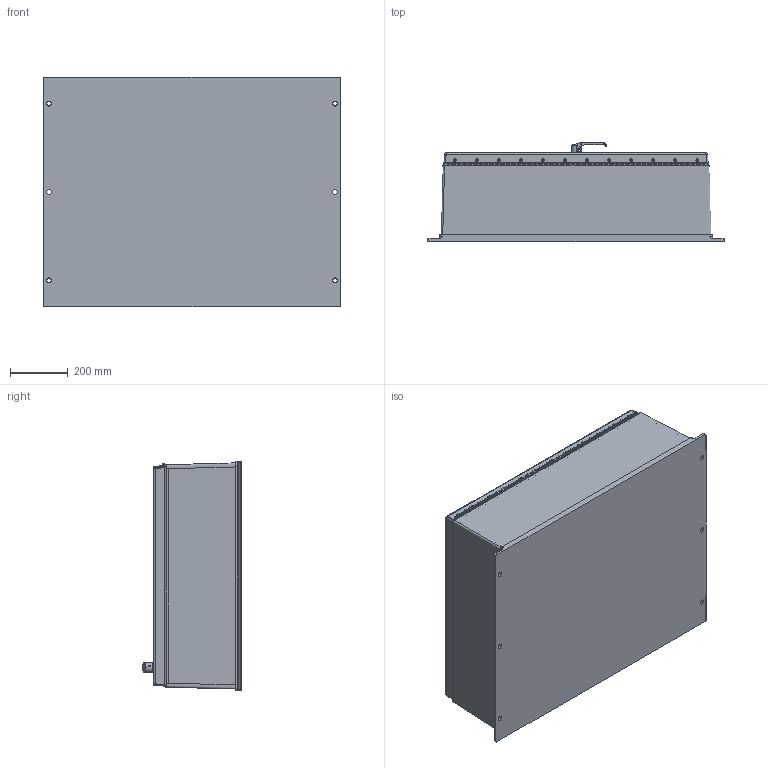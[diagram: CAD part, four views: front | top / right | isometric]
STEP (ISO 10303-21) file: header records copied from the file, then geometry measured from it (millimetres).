
FILE_DESCRIPTION (( 'STEP AP203' ), '1' );
FILE_NAME ('PJW363010L3PT.step', '2014-07-21T18:27:22', ( '' ), ( '' ), 'SwSTEP 2.0', 'SolidWorks 2014', '' );
FILE_SCHEMA (( 'CONFIG_CONTROL_DESIGN' ));
Length unit declared in the file: inch
Products named in the file (35): HI_7-100-ORING; SYSTEM 62 IN (17-1125IP)_17-1125IP; 70-EMGSKT_AM3630; 70-EMRWASHER; 70-EM3PTWMHD316; SYSTEM 52 (17-61225); BONDING FASTENER INSERT; 70-EMTHROD; 2344001; AM363012L3PT_3 Point Latch; 70-1654003-2; 70-EM3PTRDGD; 70-EMSPACER; 2343001_3 Point Latch; PJW363010L3PT; HI_7-100-P1; 70-EM3PTADPT; 70-38FLWASHER; 2341001_3 Point Latch; HI_7-100-P2; 70-EMROTALOCM1B1; 70-EM38LKWASHER; BodyHinge_70-EM36HINGE316; HI_7-100-NUT; WEMROD36_WEMROD36; 70-3816NUT; CoverHinge_35IN CoverHinge; HI_7-100-FD; SYSTEM 18 (17-6124)_17-6124; Rotaloc_F1-B76; Hinge Rod_35IN HINGE PIN; HI_7-100-EM; SYSTEM 45 IN (17-23)_17-23; 70-EM3PTCAM; 70-EMRVT316
Assembly tree (107 placements, depth 4):
  PJW363010L3PT
    AM363012L3PT_3 Point Latch
      2344001
      2343001_3 Point Latch
      2341001_3 Point Latch
      BodyHinge_70-EM36HINGE316
      CoverHinge_35IN CoverHinge
      Hinge Rod_35IN HINGE PIN
      70-EMRVT316  x24
      70-EMRWASHER  x12
      70-EMTHROD  x6
      70-EMSPACER  x6
      70-38FLWASHER  x6
      70-EM38LKWASHER  x6
      70-3816NUT  x6
      Rotaloc_F1-B76  x6
      70-EM3PTCAM
      70-EMGSKT_AM3630
      BONDING FASTENER INSERT  x6
      70-EM3PTRDGD  x2
      70-EM3PTADPT  x2
      70-EMROTALOCM1B1  x2
      WEMROD36_WEMROD36  x2
      SYSTEM 18 (17-6124)_17-6124
      SYSTEM 45 IN (17-23)_17-23
      SYSTEM 62 IN (17-1125IP)_17-1125IP
      SYSTEM 52 (17-61225)
      70-1654003-2
      70-EM3PTWMHD316
        HI_7-100-P1
        HI_7-100-P2
        HI_7-100-NUT
        HI_7-100-FD
        HI_7-100-EM
        HI_7-100-ORING
Bounding box: 1028.7 x 343.41 x 791.21 mm (x, y, z)
Volume: 14183072.4 mm3; surface area: 7554874.4 mm2
Topology: 115 solids, 117 shells, 3671 faces, 9644 edges, 6193 vertices
Faces by surface type: cylinder 1836, plane 1178, torus 280, cone 242, bspline 71, sphere 64
Entity records: 78720 total; most frequent: CARTESIAN_POINT 19478, DIRECTION 11600, ORIENTED_EDGE 11206, EDGE_CURVE 5603, AXIS2_PLACEMENT_3D 4347, VERTEX_POINT 3593, VECTOR 2906, LINE 2906
